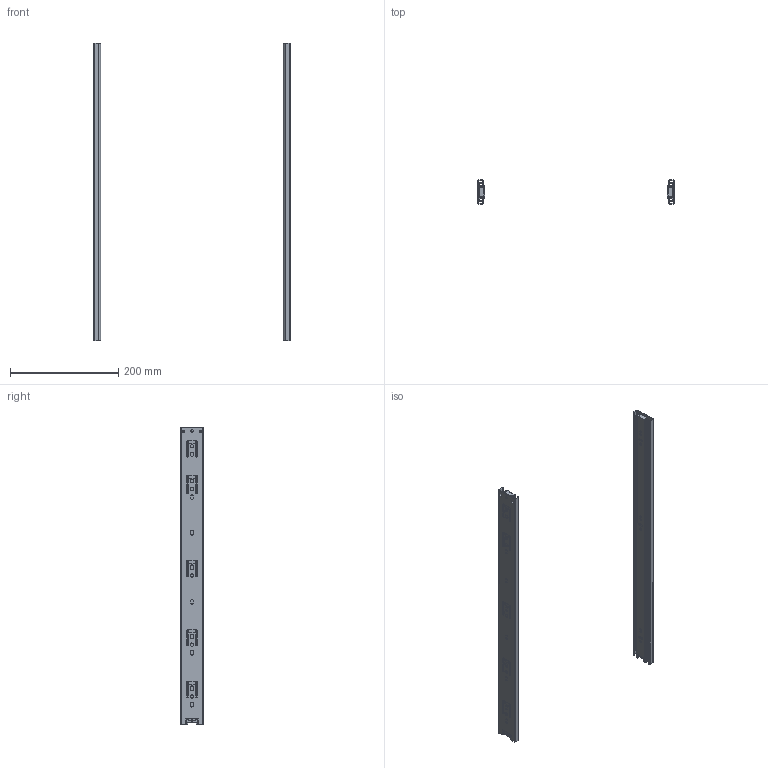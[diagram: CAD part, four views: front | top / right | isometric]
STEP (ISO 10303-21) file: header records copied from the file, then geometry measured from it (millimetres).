
FILE_DESCRIPTION(/* description */ (''),/* implementation_level */ '2;1');
FILE_NAME(/* name */ 'D:\$Workingspace\Designs\Katalog\Cadsoft\GTV Prowadnice\PK-0H45-_-XP\PK-0H45-550-XP.stp',/* time_stamp */ '2016-12-08T15:20:52+01:00',/* author */ ('tomaszw'),/* organization */ (''),/* preprocessor_version */ 'ST-DEVELOPER v16.1',/* originating_system */ 'Autodesk Inventor 2016',/* authorisation */ '');
FILE_SCHEMA (('AUTOMOTIVE_DESIGN { 1 0 10303 214 3 1 1 }'));
Length unit declared in the file: millimetre
Products named in the file (5): Blokada_5; PK-0H45_1-550-XP; PK-0H45_2-550-XP; PK-0H45_3-550-XP; PK-0H45-_-XP
Assembly tree (8 placements, depth 2):
  PK-0H45-_-XP
    Blokada_5  x2
    PK-0H45_1-550-XP  x2
    PK-0H45_2-550-XP  x2
    PK-0H45_3-550-XP  x2
Bounding box: 364 x 43.7 x 550 mm (x, y, z)
Volume: 162995.8 mm3; surface area: 333056.5 mm2
Topology: 8 solids, 8 shells, 536 faces, 1552 edges, 1032 vertices
Faces by surface type: cylinder 272, plane 260, cone 4
Full cylindrical faces by diameter (mm): 4.5 x6, 5 x2, 6 x10, 7 x4
Entity records: 9399 total; most frequent: DIRECTION 1589, CARTESIAN_POINT 1588, ORIENTED_EDGE 1530, EDGE_CURVE 765, AXIS2_PLACEMENT_3D 551, VERTEX_POINT 516, LINE 487, VECTOR 487
